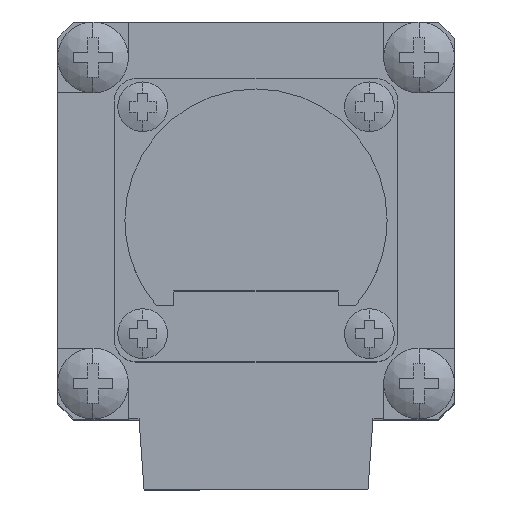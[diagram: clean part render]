
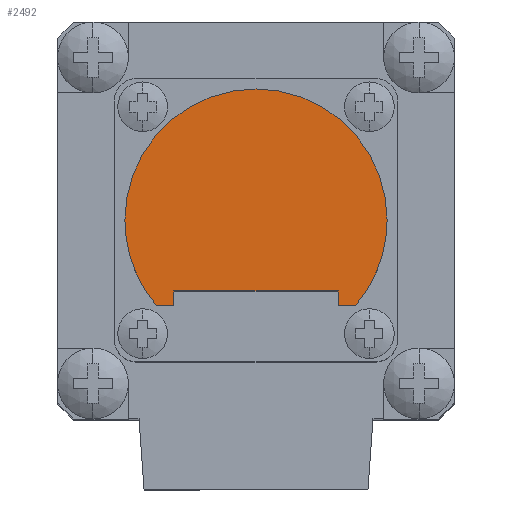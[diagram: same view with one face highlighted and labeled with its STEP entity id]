
A CAD part, top view. The second image highlights one B-rep face of the part: STEP entity #2492.
In plain terms, the highlighted planar face has unit normal (0, 0, 1).
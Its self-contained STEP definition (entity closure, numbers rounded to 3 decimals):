
#12 = CARTESIAN_POINT ( 'NONE',  ( 0., 0., 47.5 ) ) ;
#199 = LINE ( 'NONE', #4894, #2702 ) ;
#214 = CARTESIAN_POINT ( 'NONE',  ( -5.8, -5., 47.5 ) ) ;
#291 = CARTESIAN_POINT ( 'NONE',  ( 0., 0., 47.5 ) ) ;
#391 = FACE_OUTER_BOUND ( 'NONE', #4399, .T. ) ;
#463 = EDGE_CURVE ( 'NONE', #7257, #7129, #4724, .T. ) ;
#473 = VERTEX_POINT ( 'NONE', #4989 ) ;
#478 = PLANE ( 'NONE',  #7121 ) ;
#682 = DIRECTION ( 'NONE',  ( 0., 1., 0. ) ) ;
#699 = VECTOR ( 'NONE', #6460, 1000. ) ;
#703 = DIRECTION ( 'NONE',  ( 1., 0., 0. ) ) ;
#883 = CARTESIAN_POINT ( 'NONE',  ( 5.8, -5., 47.5 ) ) ;
#962 = EDGE_CURVE ( 'NONE', #5163, #473, #6220, .T. ) ;
#1005 = DIRECTION ( 'NONE',  ( 0., 0., -1. ) ) ;
#1056 = CARTESIAN_POINT ( 'NONE',  ( -7.04, -6., 47.5 ) ) ;
#1426 = ORIENTED_EDGE ( 'NONE', *, *, #5299, .T. ) ;
#1460 = ORIENTED_EDGE ( 'NONE', *, *, #463, .T. ) ;
#1488 = CARTESIAN_POINT ( 'NONE',  ( 5.8, -5., 47.5 ) ) ;
#1545 = DIRECTION ( 'NONE',  ( 1., 0., 0. ) ) ;
#1581 = ORIENTED_EDGE ( 'NONE', *, *, #2919, .T. ) ;
#1751 = CARTESIAN_POINT ( 'NONE',  ( -5.8, -5., 47.5 ) ) ;
#2034 = DIRECTION ( 'NONE',  ( 0., 0., 1. ) ) ;
#2154 = AXIS2_PLACEMENT_3D ( 'NONE', #12, #2380, #7567 ) ;
#2263 = DIRECTION ( 'NONE',  ( -1., 0., 0. ) ) ;
#2380 = DIRECTION ( 'NONE',  ( 0., 0., 1. ) ) ;
#2492 = ADVANCED_FACE ( 'NONE', ( #391 ), #478, .F. ) ;
#2526 = EDGE_CURVE ( 'NONE', #473, #3411, #6951, .T. ) ;
#2537 = ORIENTED_EDGE ( 'NONE', *, *, #3282, .T. ) ;
#2694 = EDGE_CURVE ( 'NONE', #4641, #7257, #3532, .T. ) ;
#2696 = DIRECTION ( 'NONE',  ( 1., 0., 0. ) ) ;
#2702 = VECTOR ( 'NONE', #5439, 1000. ) ;
#2919 = EDGE_CURVE ( 'NONE', #5007, #4641, #6431, .T. ) ;
#3065 = CIRCLE ( 'NONE', #3453, 9.25 ) ;
#3282 = EDGE_CURVE ( 'NONE', #7129, #5163, #199, .T. ) ;
#3411 = VERTEX_POINT ( 'NONE', #5053 ) ;
#3453 = AXIS2_PLACEMENT_3D ( 'NONE', #291, #2034, #2696 ) ;
#3532 = LINE ( 'NONE', #4152, #7010 ) ;
#4080 = VERTEX_POINT ( 'NONE', #6949 ) ;
#4152 = CARTESIAN_POINT ( 'NONE',  ( -5.8, -6., 47.5 ) ) ;
#4301 = ORIENTED_EDGE ( 'NONE', *, *, #962, .T. ) ;
#4399 = EDGE_LOOP ( 'NONE', ( #1460, #2537, #4301, #4407, #1426, #7478, #1581, #7471 ) ) ;
#4407 = ORIENTED_EDGE ( 'NONE', *, *, #2526, .T. ) ;
#4467 = CARTESIAN_POINT ( 'NONE',  ( 0., 0., 47.5 ) ) ;
#4549 = DIRECTION ( 'NONE',  ( 0., 0., 1. ) ) ;
#4641 = VERTEX_POINT ( 'NONE', #1056 ) ;
#4724 = LINE ( 'NONE', #1751, #5377 ) ;
#4809 = AXIS2_PLACEMENT_3D ( 'NONE', #4467, #4549, #1545 ) ;
#4887 = VECTOR ( 'NONE', #6671, 1000. ) ;
#4894 = CARTESIAN_POINT ( 'NONE',  ( -5.8, -5., 47.5 ) ) ;
#4989 = CARTESIAN_POINT ( 'NONE',  ( 5.8, -6., 47.5 ) ) ;
#5007 = VERTEX_POINT ( 'NONE', #6461 ) ;
#5053 = CARTESIAN_POINT ( 'NONE',  ( 7.04, -6., 47.5 ) ) ;
#5163 = VERTEX_POINT ( 'NONE', #1488 ) ;
#5299 = EDGE_CURVE ( 'NONE', #3411, #4080, #5741, .T. ) ;
#5377 = VECTOR ( 'NONE', #682, 1000. ) ;
#5439 = DIRECTION ( 'NONE',  ( 1., 0., 0. ) ) ;
#5708 = CARTESIAN_POINT ( 'NONE',  ( 0., 0., 47.5 ) ) ;
#5741 = CIRCLE ( 'NONE', #2154, 9.25 ) ;
#5745 = CARTESIAN_POINT ( 'NONE',  ( 5.8, -6., 47.5 ) ) ;
#6220 = LINE ( 'NONE', #883, #4887 ) ;
#6319 = CARTESIAN_POINT ( 'NONE',  ( -5.8, -6., 47.5 ) ) ;
#6431 = CIRCLE ( 'NONE', #4809, 9.25 ) ;
#6460 = DIRECTION ( 'NONE',  ( 1., 0., 0. ) ) ;
#6461 = CARTESIAN_POINT ( 'NONE',  ( -9.25, 0., 47.5 ) ) ;
#6671 = DIRECTION ( 'NONE',  ( 0., -1., 0. ) ) ;
#6949 = CARTESIAN_POINT ( 'NONE',  ( 9.25, 0., 47.5 ) ) ;
#6951 = LINE ( 'NONE', #5745, #699 ) ;
#7010 = VECTOR ( 'NONE', #703, 1000. ) ;
#7121 = AXIS2_PLACEMENT_3D ( 'NONE', #5708, #1005, #2263 ) ;
#7122 = EDGE_CURVE ( 'NONE', #4080, #5007, #3065, .T. ) ;
#7129 = VERTEX_POINT ( 'NONE', #214 ) ;
#7257 = VERTEX_POINT ( 'NONE', #6319 ) ;
#7471 = ORIENTED_EDGE ( 'NONE', *, *, #2694, .T. ) ;
#7478 = ORIENTED_EDGE ( 'NONE', *, *, #7122, .T. ) ;
#7567 = DIRECTION ( 'NONE',  ( 1., 0., 0. ) ) ;
